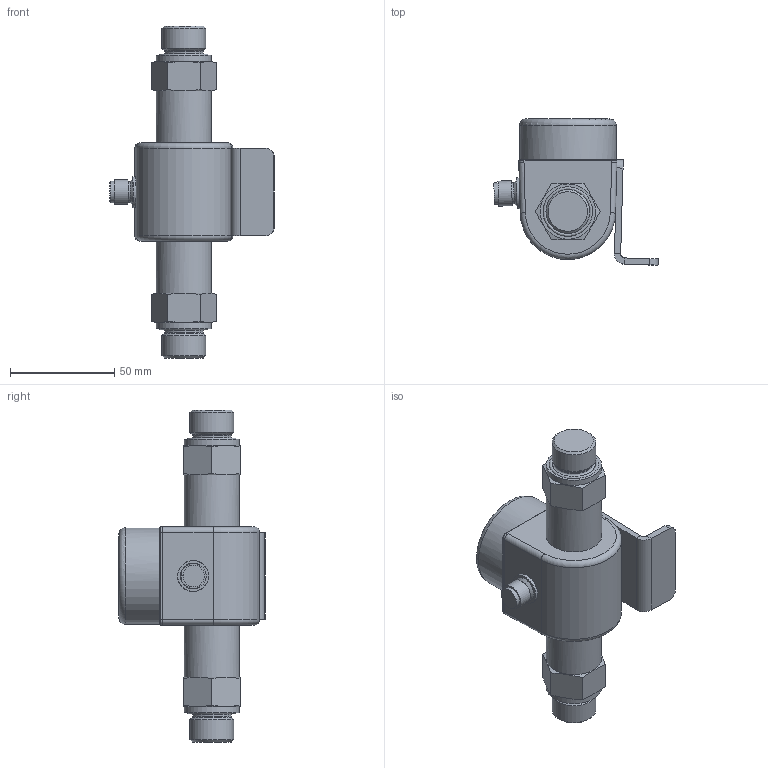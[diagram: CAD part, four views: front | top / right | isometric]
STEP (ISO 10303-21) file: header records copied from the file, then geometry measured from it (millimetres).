
FILE_DESCRIPTION(/* description */ (''),/* implementation_level */ '2;1');
FILE_NAME(/* name */ 'C:\Daten\BDS inventor\_Working - MM\3D modely pro zákazníky\DMD 831, G1_4DIN 3852, M12x1_5kolík_Obal_1.stp',/* time_stamp */ '2017-02-09T13:46:27+01:00',/* author */ ('CZ1231'),/* organization */ (''),/* preprocessor_version */ 'ST-DEVELOPER v15.2',/* originating_system */ 'Autodesk Inventor 2014',/* authorisation */ '');
FILE_SCHEMA (('AUTOMOTIVE_DESIGN { 1 0 10303 214 3 1 1 }'));
Length unit declared in the file: millimetre
Products named in the file (1): DMD 831, G1_4DIN 3852, M12x1_5kolík_Obal_1
Bounding box: 78.69 x 70.11 x 159 mm (x, y, z)
Volume: 192780.8 mm3; surface area: 28379.7 mm2
Topology: 1 solids, 1 shells, 111 faces, 240 edges, 143 vertices
Faces by surface type: plane 53, cylinder 32, torus 13, cone 11, bspline 2
Full cylindrical faces by diameter (mm): 10.1 x1, 10.27 x1, 12 x1, 14.85 x1, 18.4 x2, 20.955 x2, 26.5 x4, 46.3 x1
Entity records: 3221 total; most frequent: CARTESIAN_POINT 812, DIRECTION 490, ORIENTED_EDGE 406, AXIS2_PLACEMENT_3D 205, EDGE_CURVE 203, EDGE_LOOP 154, VERTEX_POINT 137, STYLED_ITEM 112
